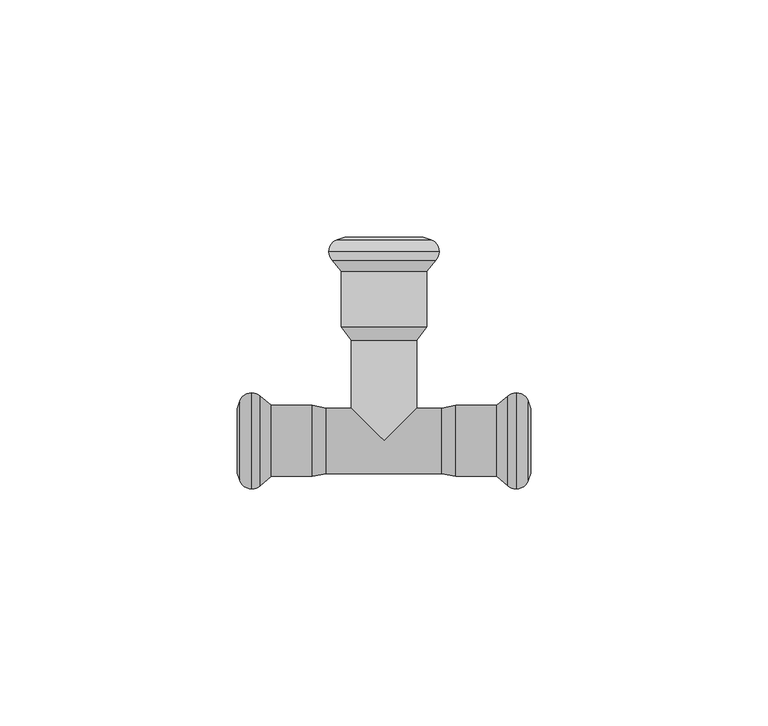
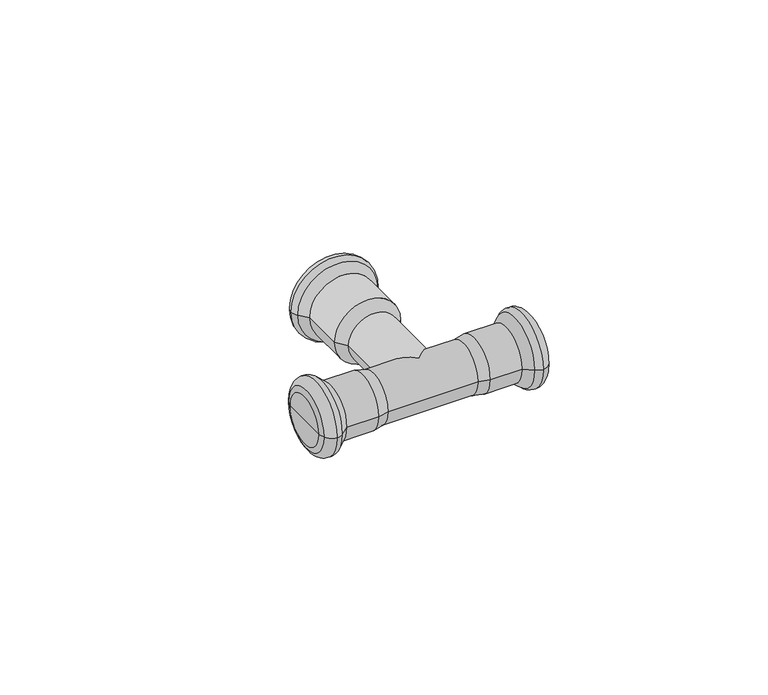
"""IFC4 building model written with IfcOpenShell, lengths in millimetres: pipe fitting geometry, KAN-therm Steel trójnik redukcyjny : KAN-therm Steel trójnik redukcyjny."""

from ifc_helpers import new_model, si_unit, point, frame, origin, place, context, project, spatial, polyline, circle_curve, ellipse_curve, trimmed, source, transform, mapped, element, save
from ifc_brep_helpers import plane_surface, cylinder_surface, revolved_surface, advanced_brep


def pipe_fitting_7c4b0f0e(model_context):
    return source(origin(), model_context, "Body", "AdvancedBrep", [
        advanced_brep(
        [(26.0922627, -9.4370225, 0.0), (26.0922627, 9.4370225, 0.0), (27.8921278, 10.125, 0.0), (27.8921278, -10.125, 0.0), (23.7838092, -7.5, 0.0), (23.7838092, 7.5, 0.0), (15.1180407, -7.5, 0.0), (15.1180407, 7.5, 0.0), (12.2, -6.9, 0.0), (12.2, 6.9, 0.0), (-12.2, -6.9, 0.0), (-12.2, 6.9, 0.0), (-6.9, 6.9, 0.0), (0.0, 0.0, -6.9), (6.9, 6.9, 0.0), (0.0, 0.0, 6.9), (-15.1180407, -7.5, 0.0), (-15.1180407, 7.5, 0.0), (-23.7838092, -7.5, 0.0), (-23.7838092, 7.5, 0.0), (-26.0922627, -9.4370225, 0.0), (-26.0922627, 9.4370225, 0.0), (-27.8921278, -10.125, 0.0), (-27.8921278, 10.125, 0.0), (-30.432052, -8.3484544, 0.0), (-30.432052, 8.3484544, 0.0), (-31.0, -6.7880302, 0.0), (-31.0, 6.7880302, 0.0), (-31.0, 0.0, 0.0), (31.0, -6.7880302, 0.0), (31.0, 6.7880302, 0.0), (31.0, 0.0, 0.0), (30.432052, -8.3484544, 0.0), (30.432052, 8.3484544, 0.0), (10.9370225, 38.0922627, 0.0), (-10.9370225, 38.0922627, 0.0), (-11.625, 39.8921278, 0.0), (11.625, 39.8921278, 0.0), (9.0, 35.7838092, 0.0), (-9.0, 35.7838092, 0.0), (9.0, 24.1180407, 0.0), (-9.0, 24.1180407, 0.0), (8.2880302, 43.0, 0.0), (-8.2880302, 43.0, 0.0), (0.0, 43.0, 0.0), (9.8484544, 42.432052, 0.0), (-9.8484544, 42.432052, 0.0), (6.9, 21.2, 0.0), (-6.9, 21.2, 0.0)],
        [
            (0, 1, circle_curve(frame((26.0922627, 0.0, 0.0), z_axis=(1.0, 0.0, 0.0), x_axis=(0.0, 1.0, 0.0)), 9.4370225)),
            (1, 2, circle_curve(frame((27.8935049, 7.4230333, 0.0), z_axis=(0.0, 0.0, -1.0), x_axis=(1.0, 0.0, 0.0)), 2.701967)),
            (2, 3, circle_curve(frame((27.8921278, 0.0, 0.0), z_axis=(-1.0, 0.0, 0.0), x_axis=(0.0, 1.0, 0.0)), 10.125)),
            (3, 0, circle_curve(frame((27.8935049, -7.4230333, 0.0), z_axis=(0.0, 0.0, -1.0), x_axis=(1.0, 0.0, 0.0)), 2.701967)),
            (1, 0, circle_curve(frame((26.0922627, 0.0, 0.0), z_axis=(1.0, 0.0, 0.0), x_axis=(0.0, 1.0, 0.0)), 9.4370225)),
            (3, 2, circle_curve(frame((27.8921278, 0.0, 0.0), z_axis=(-1.0, 0.0, 0.0), x_axis=(0.0, 1.0, 0.0)), 10.125)),
            (0, 4),
            (4, 5, circle_curve(frame((23.7838092, 0.0, 0.0), z_axis=(1.0, 0.0, 0.0), x_axis=(0.0, 1.0, 0.0)), 7.5)),
            (5, 1),
            (5, 4, circle_curve(frame((23.7838092, 0.0, 0.0), z_axis=(1.0, 0.0, 0.0), x_axis=(0.0, 1.0, 0.0)), 7.5)),
            (4, 6),
            (6, 7, circle_curve(frame((15.1180407, 0.0, 0.0), z_axis=(1.0, 0.0, 0.0), x_axis=(0.0, 1.0, 0.0)), 7.5)),
            (7, 5),
            (7, 6, circle_curve(frame((15.1180407, 0.0, 0.0), z_axis=(1.0, 0.0, 0.0), x_axis=(0.0, 1.0, 0.0)), 7.5)),
            (6, 8),
            (8, 9, circle_curve(frame((12.2, 0.0, 0.0), z_axis=(1.0, 0.0, 0.0), x_axis=(0.0, 1.0, 0.0)), 6.9)),
            (9, 7),
            (9, 8, circle_curve(frame((12.2, 0.0, 0.0), z_axis=(1.0, 0.0, 0.0), x_axis=(0.0, 1.0, 0.0)), 6.9)),
            (8, 10),
            (10, 11, circle_curve(frame((-12.2, 0.0, 0.0), z_axis=(1.0, 0.0, 0.0), x_axis=(0.0, 1.0, 0.0)), 6.9)),
            (11, 12),
            (12, 13, ellipse_curve(frame((0.0, 0.0, 0.0), z_axis=(-0.7071067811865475, -0.7071067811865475, 0.0), x_axis=(-0.7071067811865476, 0.7071067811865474, 0.0)), 9.7580736, 6.9)),
            (13, 14, ellipse_curve(frame((0.0, 0.0, 0.0), z_axis=(0.7071067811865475, -0.7071067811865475, 0.0), x_axis=(-0.7071067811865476, -0.7071067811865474, 0.0)), 9.7580736, 6.9)),
            (14, 9),
            (14, 15, ellipse_curve(frame((0.0, 0.0, 0.0), z_axis=(0.7071067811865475, -0.7071067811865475, 0.0), x_axis=(-0.7071067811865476, -0.7071067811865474, 0.0)), 9.7580736, 6.9)),
            (15, 12, ellipse_curve(frame((0.0, 0.0, 0.0), z_axis=(-0.7071067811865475, -0.7071067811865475, 0.0), x_axis=(-0.7071067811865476, 0.7071067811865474, 0.0)), 9.7580736, 6.9)),
            (11, 10, circle_curve(frame((-12.2, 0.0, 0.0), z_axis=(1.0, 0.0, 0.0), x_axis=(0.0, 1.0, 0.0)), 6.9)),
            (10, 16),
            (16, 17, circle_curve(frame((-15.1180407, 0.0, 0.0), z_axis=(1.0, 0.0, 0.0), x_axis=(0.0, 1.0, 0.0)), 7.5)),
            (17, 11),
            (17, 16, circle_curve(frame((-15.1180407, 0.0, 0.0), z_axis=(1.0, 0.0, 0.0), x_axis=(0.0, 1.0, 0.0)), 7.5)),
            (16, 18),
            (18, 19, circle_curve(frame((-23.7838092, 0.0, 0.0), z_axis=(1.0, 0.0, 0.0), x_axis=(0.0, 1.0, 0.0)), 7.5)),
            (19, 17),
            (19, 18, circle_curve(frame((-23.7838092, 0.0, 0.0), z_axis=(1.0, 0.0, 0.0), x_axis=(0.0, 1.0, 0.0)), 7.5)),
            (18, 20),
            (20, 21, circle_curve(frame((-26.0922627, 0.0, 0.0), z_axis=(1.0, 0.0, 0.0), x_axis=(0.0, 1.0, 0.0)), 9.4370225)),
            (21, 19),
            (21, 20, circle_curve(frame((-26.0922627, 0.0, 0.0), z_axis=(1.0, 0.0, 0.0), x_axis=(0.0, 1.0, 0.0)), 9.4370225)),
            (20, 22, circle_curve(frame((-27.8935049, -7.4230333, 0.0), z_axis=(0.0, 0.0, -1.0), x_axis=(1.0, 0.0, 0.0)), 2.701967)),
            (22, 23, circle_curve(frame((-27.8921278, 0.0, 0.0), z_axis=(1.0, 0.0, 0.0), x_axis=(0.0, 1.0, 0.0)), 10.125)),
            (23, 21, circle_curve(frame((-27.8935049, 7.4230333, 0.0), z_axis=(0.0, 0.0, -1.0), x_axis=(1.0, 0.0, 0.0)), 2.701967)),
            (23, 22, circle_curve(frame((-27.8921278, 0.0, 0.0), z_axis=(1.0, 0.0, 0.0), x_axis=(0.0, 1.0, 0.0)), 10.125)),
            (22, 24, circle_curve(frame((-27.89488, -7.4249993, 0.0), z_axis=(0.0, 0.0, -1.0), x_axis=(1.0, 0.0, 0.0)), 2.7000021)),
            (24, 25, circle_curve(frame((-30.432052, 0.0, 0.0), z_axis=(1.0, 0.0, 0.0), x_axis=(0.0, 1.0, 0.0)), 8.3484544)),
            (25, 23, circle_curve(frame((-27.89488, 7.4249993, 0.0), z_axis=(0.0, 0.0, -1.0), x_axis=(1.0, 0.0, 0.0)), 2.7000021)),
            (25, 24, circle_curve(frame((-30.432052, 0.0, 0.0), z_axis=(1.0, 0.0, 0.0), x_axis=(0.0, 1.0, 0.0)), 8.3484544)),
            (24, 26),
            (26, 27, circle_curve(frame((-31.0, 0.0, 0.0), z_axis=(1.0, 0.0, 0.0), x_axis=(0.0, 1.0, 0.0)), 6.7880302)),
            (27, 25),
            (27, 26, circle_curve(frame((-31.0, 0.0, 0.0), z_axis=(1.0, 0.0, 0.0), x_axis=(0.0, 1.0, 0.0)), 6.7880302)),
            (26, 28),
            (28, 27),
            (29, 30, circle_curve(frame((31.0, 0.0, 0.0), z_axis=(1.0, 0.0, 0.0), x_axis=(0.0, 1.0, 0.0)), 6.7880302)),
            (30, 31),
            (31, 29),
            (30, 29, circle_curve(frame((31.0, 0.0, 0.0), z_axis=(1.0, 0.0, 0.0), x_axis=(0.0, 1.0, 0.0)), 6.7880302)),
            (29, 32),
            (32, 33, circle_curve(frame((30.432052, 0.0, 0.0), z_axis=(1.0, 0.0, 0.0), x_axis=(0.0, 1.0, 0.0)), 8.3484544)),
            (33, 30),
            (33, 32, circle_curve(frame((30.432052, 0.0, 0.0), z_axis=(1.0, 0.0, 0.0), x_axis=(0.0, 1.0, 0.0)), 8.3484544)),
            (2, 33, circle_curve(frame((27.89488, 7.4249993, 0.0), z_axis=(0.0, 0.0, -1.0), x_axis=(1.0, 0.0, 0.0)), 2.7000021)),
            (32, 3, circle_curve(frame((27.89488, -7.4249993, 0.0), z_axis=(0.0, 0.0, -1.0), x_axis=(1.0, 0.0, 0.0)), 2.7000021)),
            (34, 35, circle_curve(frame((0.0, 38.0922627, 0.0), z_axis=(0.0, 1.0, 0.0), x_axis=(-1.0, 0.0, 0.0)), 10.9370225)),
            (35, 36, circle_curve(frame((-8.9230333, 39.8935049, 0.0), z_axis=(0.0, 0.0, -1.0), x_axis=(1.0, 0.0, 0.0)), 2.701967)),
            (36, 37, circle_curve(frame((0.0, 39.8921278, 0.0), z_axis=(0.0, -1.0, 0.0), x_axis=(-1.0, 0.0, 0.0)), 11.625)),
            (37, 34, circle_curve(frame((8.9230333, 39.8935049, 0.0), z_axis=(0.0, 0.0, -1.0), x_axis=(-1.0, 0.0, 0.0)), 2.701967)),
            (35, 34, circle_curve(frame((0.0, 38.0922627, 0.0), z_axis=(0.0, 1.0, 0.0), x_axis=(-1.0, 0.0, 0.0)), 10.9370225)),
            (37, 36, circle_curve(frame((0.0, 39.8921278, 0.0), z_axis=(0.0, -1.0, 0.0), x_axis=(-1.0, 0.0, 0.0)), 11.625)),
            (34, 38),
            (38, 39, circle_curve(frame((0.0, 35.7838092, 0.0), z_axis=(0.0, 1.0, 0.0), x_axis=(-1.0, 0.0, 0.0)), 9.0)),
            (39, 35),
            (39, 38, circle_curve(frame((0.0, 35.7838092, 0.0), z_axis=(0.0, 1.0, 0.0), x_axis=(-1.0, 0.0, 0.0)), 9.0)),
            (38, 40),
            (40, 41, circle_curve(frame((0.0, 24.1180407, 0.0), z_axis=(0.0, 1.0, 0.0), x_axis=(-1.0, 0.0, 0.0)), 9.0)),
            (41, 39),
            (41, 40, circle_curve(frame((0.0, 24.1180407, 0.0), z_axis=(0.0, 1.0, 0.0), x_axis=(-1.0, 0.0, 0.0)), 9.0)),
            (42, 43, circle_curve(frame((0.0, 43.0, 0.0), z_axis=(0.0, 1.0, 0.0), x_axis=(-1.0, 0.0, 0.0)), 8.2880302)),
            (43, 44),
            (44, 42),
            (43, 42, circle_curve(frame((0.0, 43.0, 0.0), z_axis=(0.0, 1.0, 0.0), x_axis=(-1.0, 0.0, 0.0)), 8.2880302)),
            (42, 45),
            (45, 46, circle_curve(frame((0.0, 42.432052, 0.0), z_axis=(0.0, 1.0, 0.0), x_axis=(-1.0, 0.0, 0.0)), 9.8484544)),
            (46, 43),
            (46, 45, circle_curve(frame((0.0, 42.432052, 0.0), z_axis=(0.0, 1.0, 0.0), x_axis=(-1.0, 0.0, 0.0)), 9.8484544)),
            (36, 46, circle_curve(frame((-8.9249993, 39.89488, 0.0), z_axis=(0.0, 0.0, -1.0), x_axis=(1.0, 0.0, 0.0)), 2.7000021)),
            (45, 37, circle_curve(frame((8.9249993, 39.89488, 0.0), z_axis=(0.0, 0.0, -1.0), x_axis=(-1.0, 0.0, 0.0)), 2.7000021)),
            (40, 47),
            (47, 48, circle_curve(frame((0.0, 21.2, 0.0), z_axis=(0.0, 1.0, 0.0), x_axis=(-1.0, 0.0, 0.0)), 6.9)),
            (48, 41),
            (48, 47, circle_curve(frame((0.0, 21.2, 0.0), z_axis=(0.0, 1.0, 0.0), x_axis=(-1.0, 0.0, 0.0)), 6.9)),
            (47, 14),
            (12, 48),
        ],
        [
            revolved_surface(trimmed(ellipse_curve(frame((27.8935049, 7.4230333, 0.0), z_axis=(0.0, 0.0, 1.0), x_axis=(1.0, 0.0, 0.0)), 2.701967, 2.701967), [point((27.8921278, 10.125, 0.0))], [point((26.0922627, 9.4370225, 0.0))], True, "CARTESIAN"), (1344.742668, 0.0, 0.0), (-1.0, 0.0, 0.0)),
            revolved_surface(polyline([(26.0922627, 9.4370225, 0.0), (23.7838092, 7.5, 0.0)]), (1344.742668, 0.0, 0.0), (-1.0, 0.0, 0.0)),
            cylinder_surface(frame((1344.742668, 0.0, 0.0), z_axis=(-1.0, 0.0, 0.0), x_axis=(0.0, 1.0, 0.0)), 7.5),
            revolved_surface(polyline([(15.1180407, 7.5, 0.0), (12.2, 6.9, 0.0)]), (1344.742668, 0.0, 0.0), (-1.0, 0.0, 0.0)),
            cylinder_surface(frame((1344.742668, 0.0, 0.0), z_axis=(-1.0, 0.0, 0.0), x_axis=(0.0, 1.0, 0.0)), 6.9),
            revolved_surface(polyline([(-12.2, 6.9, 0.0), (-15.1180407, 7.5, 0.0)]), (1344.742668, 0.0, 0.0), (-1.0, 0.0, 0.0)),
            revolved_surface(polyline([(-23.7838092, 7.5, 0.0), (-26.0922627, 9.4370225, 0.0)]), (1344.742668, 0.0, 0.0), (-1.0, 0.0, 0.0)),
            revolved_surface(trimmed(ellipse_curve(frame((-27.8935049, 7.4230333, 0.0), z_axis=(0.0, 0.0, 1.0), x_axis=(1.0, 0.0, 0.0)), 2.701967, 2.701967), [point((-26.0922627, 9.4370225, 0.0))], [point((-27.8921278, 10.125, 0.0))], True, "CARTESIAN"), (1344.742668, 0.0, 0.0), (-1.0, 0.0, 0.0)),
            revolved_surface(trimmed(ellipse_curve(frame((-27.89488, 7.4249993, 0.0), z_axis=(0.0, 0.0, 1.0), x_axis=(1.0, 0.0, 0.0)), 2.7000021, 2.7000021), [point((-27.8921278, 10.125, 0.0))], [point((-30.432052, 8.3484544, 0.0))], True, "CARTESIAN"), (1344.742668, 0.0, 0.0), (-1.0, 0.0, 0.0)),
            revolved_surface(polyline([(-30.432052, 8.3484544, 0.0), (-31.0, 6.7880302, 0.0)]), (1344.742668, 0.0, 0.0), (-1.0, 0.0, 0.0)),
            plane_surface(frame((-31.0, 0.0, 0.0), z_axis=(-1.0, 0.0, 0.0), x_axis=(0.0, 1.0, 0.0))),
            plane_surface(frame((31.0, 0.0, 0.0), z_axis=(1.0, 0.0, 0.0), x_axis=(0.0, 1.0, 0.0))),
            revolved_surface(polyline([(31.0, 6.7880302, 0.0), (30.432052, 8.3484544, 0.0)]), (1344.742668, 0.0, 0.0), (-1.0, 0.0, 0.0)),
            revolved_surface(trimmed(ellipse_curve(frame((27.89488, 7.4249993, 0.0), z_axis=(0.0, 0.0, 1.0), x_axis=(1.0, 0.0, 0.0)), 2.7000021, 2.7000021), [point((30.432052, 8.3484544, 0.0))], [point((27.8921278, 10.125, 0.0))], True, "CARTESIAN"), (1344.742668, 0.0, 0.0), (-1.0, 0.0, 0.0)),
            revolved_surface(trimmed(ellipse_curve(frame((-8.9230333, 39.8935049, 0.0), z_axis=(0.0, 0.0, 1.0), x_axis=(1.0, 0.0, 0.0)), 2.701967, 2.701967), [point((-11.625, 39.8921278, 0.0))], [point((-10.9370225, 38.0922627, 0.0))], True, "CARTESIAN"), (0.0, 2004.0, 0.0), (0.0, -1.0, 0.0)),
            revolved_surface(polyline([(-10.9370225, 38.0922627, 0.0), (-9.0, 35.7838092, 0.0)]), (0.0, 2004.0, 0.0), (0.0, -1.0, 0.0)),
            cylinder_surface(frame((0.0, 2004.0, 0.0), z_axis=(0.0, -1.0, 0.0), x_axis=(-1.0, 0.0, 0.0)), 9.0),
            plane_surface(frame((0.0, 43.0, 0.0), z_axis=(0.0, 1.0, 0.0), x_axis=(-1.0, 0.0, 0.0))),
            revolved_surface(polyline([(-8.2880302, 43.0, 0.0), (-9.8484544, 42.432052, 0.0)]), (0.0, 2004.0, 0.0), (0.0, -1.0, 0.0)),
            revolved_surface(trimmed(ellipse_curve(frame((-8.9249993, 39.89488, 0.0), z_axis=(0.0, 0.0, 1.0), x_axis=(1.0, 0.0, 0.0)), 2.7000021, 2.7000021), [point((-9.8484544, 42.432052, 0.0))], [point((-11.625, 39.8921278, 0.0))], True, "CARTESIAN"), (0.0, 2004.0, 0.0), (0.0, -1.0, 0.0)),
            revolved_surface(polyline([(-9.0, 24.1180407, 0.0), (-6.9, 21.2, 0.0)]), (0.0, 2004.0, 0.0), (0.0, -1.0, 0.0)),
            cylinder_surface(frame((0.0, 2004.0, 0.0), z_axis=(0.0, -1.0, 0.0), x_axis=(-1.0, 0.0, 0.0)), 6.9),
        ],
        [
            (0, [[1, 2, 3, 4]]),
            (0, [[-2, 5, -4, 6]]),
            (1, [[-1, 7, 8, 9]]),
            (1, [[-5, -9, 10, -7]]),
            (2, [[-8, 11, 12, 13]]),
            (2, [[-10, -13, 14, -11]]),
            (3, [[-12, 15, 16, 17]]),
            (3, [[-14, -17, 18, -15]]),
            (4, [[-16, 19, 20, 21, 22, 23, 24]]),
            (4, [[-18, -24, 25, 26, -21, 27, -19]]),
            (5, [[-20, 28, 29, 30]]),
            (5, [[-27, -30, 31, -28]]),
            (2, [[-29, 32, 33, 34]]),
            (2, [[-31, -34, 35, -32]]),
            (6, [[-33, 36, 37, 38]]),
            (6, [[-35, -38, 39, -36]]),
            (7, [[-37, 40, 41, 42]]),
            (7, [[-39, -42, 43, -40]]),
            (8, [[-41, 44, 45, 46]]),
            (8, [[-43, -46, 47, -44]]),
            (9, [[-45, 48, 49, 50]]),
            (9, [[-47, -50, 51, -48]]),
            (10, [[-49, 52, 53]]),
            (10, [[-51, -53, -52]]),
            (11, [[54, 55, 56]]),
            (11, [[-55, 57, -56]]),
            (12, [[-54, 58, 59, 60]]),
            (12, [[-57, -60, 61, -58]]),
            (13, [[-3, 62, -59, 63]]),
            (13, [[-6, -63, -61, -62]]),
            (14, [[64, 65, 66, 67]]),
            (14, [[-65, 68, -67, 69]]),
            (15, [[-64, 70, 71, 72]]),
            (15, [[-68, -72, 73, -70]]),
            (16, [[-71, 74, 75, 76]]),
            (16, [[-73, -76, 77, -74]]),
            (17, [[78, 79, 80]]),
            (17, [[-79, 81, -80]]),
            (18, [[-78, 82, 83, 84]]),
            (18, [[-81, -84, 85, -82]]),
            (19, [[-66, 86, -83, 87]]),
            (19, [[-69, -87, -85, -86]]),
            (20, [[-75, 88, 89, 90]]),
            (20, [[-77, -90, 91, -88]]),
            (21, [[-89, 92, -23, -22, 93]]),
            (21, [[-91, -93, -26, -25, -92]]),
        ],
    ),
    ])


if __name__ == "__main__":
    model = new_model("IFC4")
    model_context = context("Model", 3, world=origin())
    ifc_project = project(units=[si_unit("LENGTHUNIT", "METRE", prefix="MILLI")], contexts=[model_context])
    site = spatial("IfcSite", under=ifc_project)
    building = spatial("IfcBuilding", under=site)
    placement = place(None, origin())
    pipe_fitting_shape = pipe_fitting_7c4b0f0e(model_context)
    element("IfcPipeFitting", 1, ObjectType="KAN-therm Steel trójnik redukcyjny : KAN-therm Steel trójnik redukcyjny", at=placement, inside=building, context=model_context, shape_type="MappedRepresentation", body=[
        mapped(pipe_fitting_shape, transform((0.0, 0.0, 0.0), x_axis=(1.0, 0.0, 0.0), y_axis=(0.0, 1.0, 0.0), z_axis=(0.0, 0.0, 1.0))),
    ])
    save(model, "model.ifc")
